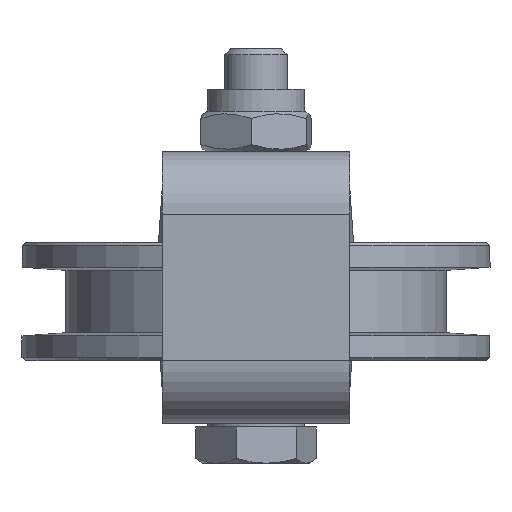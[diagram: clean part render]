
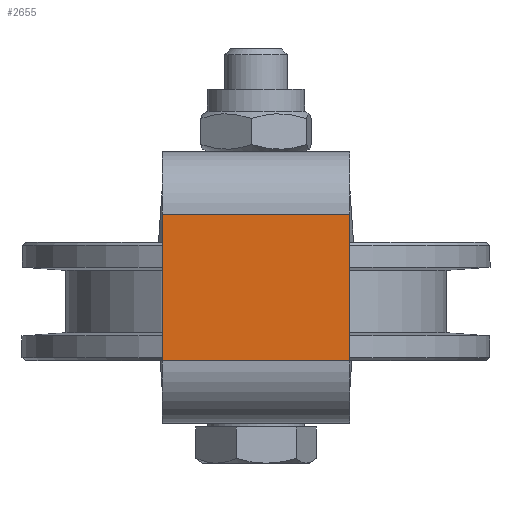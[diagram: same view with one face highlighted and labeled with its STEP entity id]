
A CAD part, left-side view. The second image highlights one B-rep face of the part: STEP entity #2655.
In plain terms, the highlighted planar face has unit normal (-1, 0, 0) as drawn and (0, 1, 0) by its records, which use the part's own axes.
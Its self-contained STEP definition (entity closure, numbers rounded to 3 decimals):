
#261=PLANE('',#3026);
#357=FACE_OUTER_BOUND('',#531,.T.);
#531=EDGE_LOOP('',(#1966,#1967,#1968,#1969));
#728=LINE('',#4168,#930);
#736=LINE('',#4189,#938);
#739=LINE('',#4196,#941);
#741=LINE('',#4199,#943);
#930=VECTOR('',#3375,10.);
#938=VECTOR('',#3401,10.);
#941=VECTOR('',#3408,10.);
#943=VECTOR('',#3412,10.);
#1253=VERTEX_POINT('',#4165);
#1254=VERTEX_POINT('',#4167);
#1258=VERTEX_POINT('',#4187);
#1260=VERTEX_POINT('',#4195);
#1508=EDGE_CURVE('',#1254,#1253,#728,.T.);
#1519=EDGE_CURVE('',#1258,#1253,#736,.T.);
#1522=EDGE_CURVE('',#1254,#1260,#739,.T.);
#1524=EDGE_CURVE('',#1258,#1260,#741,.T.);
#1966=ORIENTED_EDGE('',*,*,#1508,.T.);
#1967=ORIENTED_EDGE('',*,*,#1519,.F.);
#1968=ORIENTED_EDGE('',*,*,#1524,.T.);
#1969=ORIENTED_EDGE('',*,*,#1522,.F.);
#2655=ADVANCED_FACE('',(#357),#261,.F.);
#3026=AXIS2_PLACEMENT_3D('',#4208,#3426,#3427);
#3375=DIRECTION('',(1.,0.,0.));
#3401=DIRECTION('',(0.,0.,1.));
#3408=DIRECTION('',(0.,0.,-1.));
#3412=DIRECTION('',(-1.,0.,0.));
#3426=DIRECTION('center_axis',(0.,-1.,0.));
#3427=DIRECTION('ref_axis',(1.,0.,0.));
#4165=CARTESIAN_POINT('',(15.,56.,33.5));
#4167=CARTESIAN_POINT('',(-15.,56.,33.5));
#4168=CARTESIAN_POINT('',(-7.5,56.,33.5));
#4187=CARTESIAN_POINT('',(15.,56.,10.));
#4189=CARTESIAN_POINT('',(15.,56.,10.));
#4195=CARTESIAN_POINT('',(-15.,56.,10.));
#4196=CARTESIAN_POINT('',(-15.,56.,-1.31));
#4199=CARTESIAN_POINT('',(0.,56.,10.));
#4208=CARTESIAN_POINT('Origin',(0.,56.,21.095));
